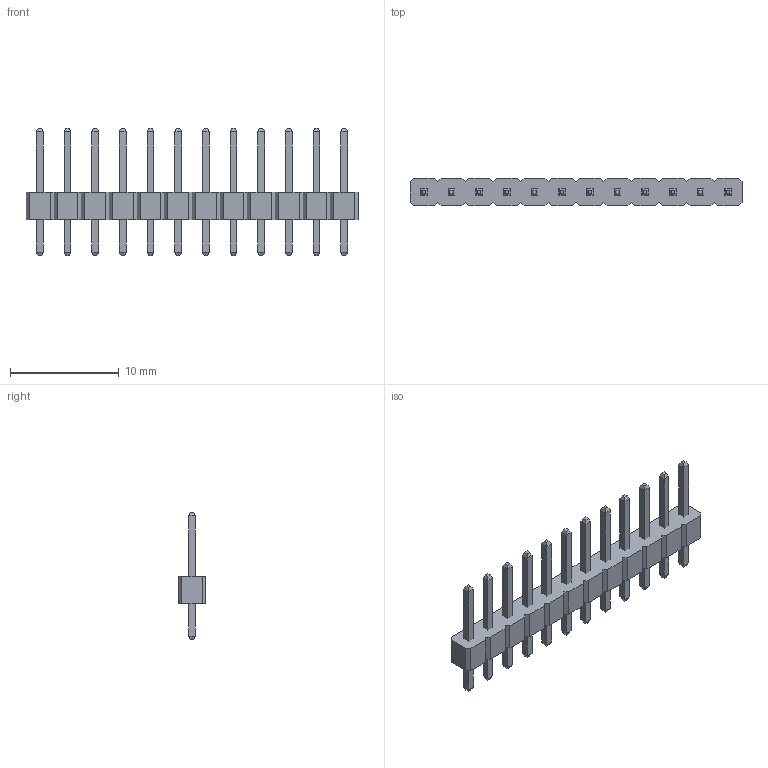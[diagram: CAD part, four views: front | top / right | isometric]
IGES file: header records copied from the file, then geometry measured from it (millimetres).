
Start section: Data from Parasolid IGES Translator 23.1.110, Copyright(c) 2006 Siemens PLM Software. All Rights Reserved.
Global section: file name: 5f3dd5f1933f190f816bcb2e.iges; native system: By Siemens PLM Incorporated; preprocessor: XPlus GENERIC/IGES 23.1.110; author: Noname; organization: Noname; date: 20200820.014625; units: metre
Bounding box: 30.48 x 2.54 x 11.68 mm (x, y, z)
Surface area: 695.7 mm2 (no closed solid volume)
Topology: 0 solids, 0 shells, 316 faces, 1404 edges, 1404 vertices
Faces by surface type: extrusion 316
